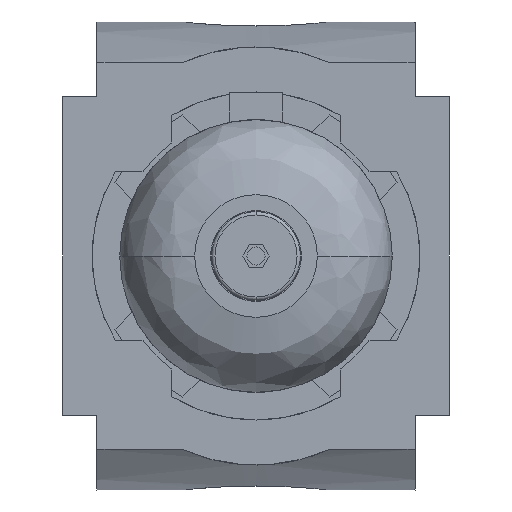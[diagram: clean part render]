
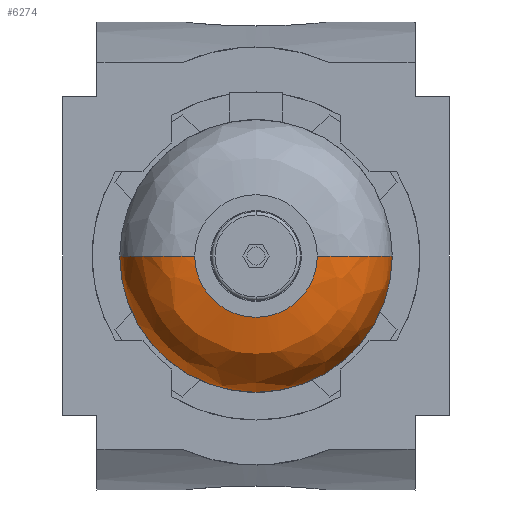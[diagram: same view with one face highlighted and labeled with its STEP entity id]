
A CAD part, front view. The second image highlights one B-rep face of the part: STEP entity #6274.
In plain terms, the highlighted free-form (B-spline) face has degree [3, 3] with [7, 4] control points.
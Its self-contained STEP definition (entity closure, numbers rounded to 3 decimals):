
#4980=CARTESIAN_POINT('',(14.,-133.,0.));
#4981=DIRECTION('',(0.,0.,1.));
#4982=DIRECTION('',(-0.031,-1.,0.));
#4983=AXIS2_PLACEMENT_3D('',#4980,#4981,#4982);
#4985=CARTESIAN_POINT('',(-14.,-133.,0.));
#4986=DIRECTION('',(0.,0.,-1.));
#4987=DIRECTION('',(0.031,-1.,0.));
#4988=AXIS2_PLACEMENT_3D('',#4985,#4986,#4987);
#4990=CARTESIAN_POINT('',(0.,-148.992,0.));
#4991=DIRECTION('',(0.,1.,0.));
#4992=DIRECTION('',(1.,0.,0.));
#4993=AXIS2_PLACEMENT_3D('',#4990,#4991,#4992);
#5213=CARTESIAN_POINT('',(0.,-133.,0.));
#5214=DIRECTION('',(0.,1.,0.));
#5215=DIRECTION('',(1.,0.,0.));
#5216=AXIS2_PLACEMENT_3D('',#5213,#5214,#5215);
#5676=CARTESIAN_POINT('',(13.5,-148.992,0.));
#5677=CARTESIAN_POINT('',(30.,-133.,0.));
#5678=VERTEX_POINT('',#5676);
#5679=VERTEX_POINT('',#5677);
#5682=CARTESIAN_POINT('',(-13.5,-148.992,0.));
#5683=CARTESIAN_POINT('',(-30.,-133.,0.));
#5684=VERTEX_POINT('',#5682);
#5685=VERTEX_POINT('',#5683);
#6236=CARTESIAN_POINT('',(-29.933,-132.487,
1.883));
#6237=CARTESIAN_POINT('',(-30.255,-142.579,
1.904));
#6238=CARTESIAN_POINT('',(-23.019,-149.607,
1.448));
#6239=CARTESIAN_POINT('',(-12.962,-148.968,
0.816));
#6240=CARTESIAN_POINT('',(-31.092,-132.487,
-16.537));
#6241=CARTESIAN_POINT('',(-31.427,-142.579,
-16.716));
#6242=CARTESIAN_POINT('',(-23.911,-149.607,
-12.718));
#6243=CARTESIAN_POINT('',(-13.464,-148.968,
-7.161));
#6244=CARTESIAN_POINT('',(-18.457,-132.487,
-29.992));
#6245=CARTESIAN_POINT('',(-18.656,-142.579,
-30.315));
#6246=CARTESIAN_POINT('',(-14.194,-149.607,
-23.065));
#6247=CARTESIAN_POINT('',(-7.993,-148.968,
-12.988));
#6248=CARTESIAN_POINT('',(0.,-132.487,
-29.992));
#6249=CARTESIAN_POINT('',(0.,-142.579,
-30.315));
#6250=CARTESIAN_POINT('',(0.,-149.607,-23.065));
#6251=CARTESIAN_POINT('',(0.,-148.968,-12.988));
#6252=CARTESIAN_POINT('',(18.457,-132.487,
-29.992));
#6253=CARTESIAN_POINT('',(18.656,-142.579,
-30.315));
#6254=CARTESIAN_POINT('',(14.194,-149.607,
-23.065));
#6255=CARTESIAN_POINT('',(7.993,-148.968,
-12.988));
#6256=CARTESIAN_POINT('',(31.092,-132.487,
-16.537));
#6257=CARTESIAN_POINT('',(31.427,-142.579,
-16.716));
#6258=CARTESIAN_POINT('',(23.911,-149.607,
-12.718));
#6259=CARTESIAN_POINT('',(13.464,-148.968,
-7.161));
#6260=CARTESIAN_POINT('',(29.933,-132.487,1.883));
#6261=CARTESIAN_POINT('',(30.255,-142.579,1.904));
#6262=CARTESIAN_POINT('',(23.019,-149.607,1.448));
#6263=CARTESIAN_POINT('',(12.962,-148.968,
0.816));
#6264=(BOUNDED_SURFACE()B_SPLINE_SURFACE(3,3,((#6236,#6237,#6238,#6239),(#6240,
#6241,#6242,#6243),(#6244,#6245,#6246,#6247),(#6248,#6249,#6250,#6251),(#6252,
#6253,#6254,#6255),(#6256,#6257,#6258,#6259),(#6260,#6261,#6262,#6263)),
.UNSPECIFIED.,.F.,.F.,.F.)B_SPLINE_SURFACE_WITH_KNOTS((4,3,4),(4,4),(0.,1.,
2.),(0.,1.),.UNSPECIFIED.)GEOMETRIC_REPRESENTATION_ITEM()RATIONAL_B_SPLINE_SURFACE(((1.42,1.11,1.11,1.42),(
1.121,0.876,0.876,1.121),(
1.121,0.876,0.876,1.121),(
1.42,1.11,1.11,1.42),(
1.121,0.876,0.876,1.121),(
1.121,0.876,0.876,1.121),(
1.42,1.11,1.11,1.42)))REPRESENTATION_ITEM('')SURFACE());
#6266=ORIENTED_EDGE('',*,*,#6265,.T.);
#6268=ORIENTED_EDGE('',*,*,#6267,.T.);
#6270=ORIENTED_EDGE('',*,*,#6269,.F.);
#6271=ORIENTED_EDGE('',*,*,#6230,.F.);
#6272=EDGE_LOOP('',(#6266,#6268,#6270,#6271));
#6273=FACE_OUTER_BOUND('',#6272,.F.);
#6274=ADVANCED_FACE('',(#6273),#6264,.T.);
#4984=CIRCLE('',#4983,16.);
#4989=CIRCLE('',#4988,16.);
#4994=CIRCLE('',#4993,13.5);
#5217=CIRCLE('',#5216,30.);
#6230=EDGE_CURVE('',#5678,#5684,#4994,.T.);
#6265=EDGE_CURVE('',#5678,#5679,#4984,.T.);
#6267=EDGE_CURVE('',#5679,#5685,#5217,.T.);
#6269=EDGE_CURVE('',#5684,#5685,#4989,.T.);
